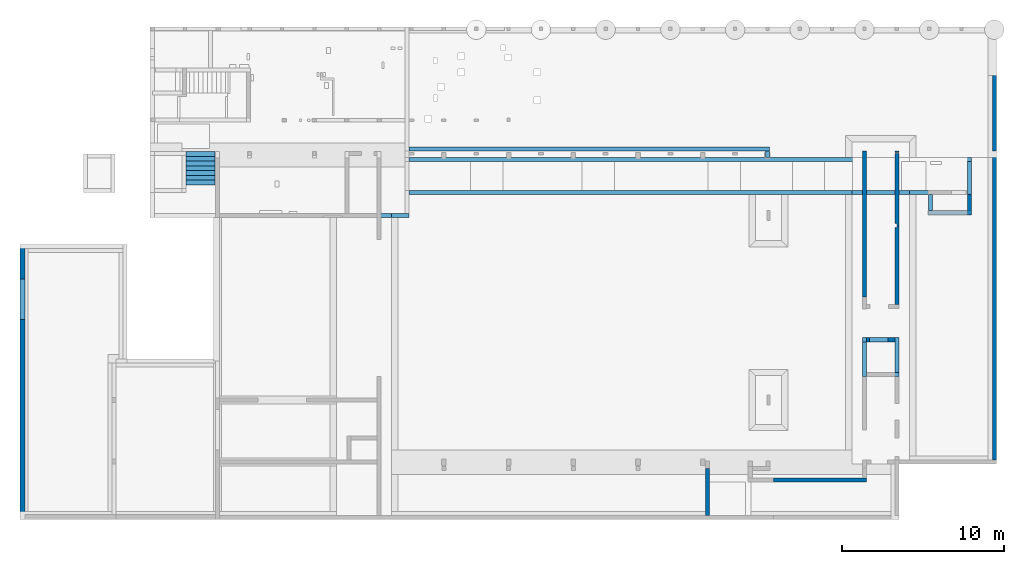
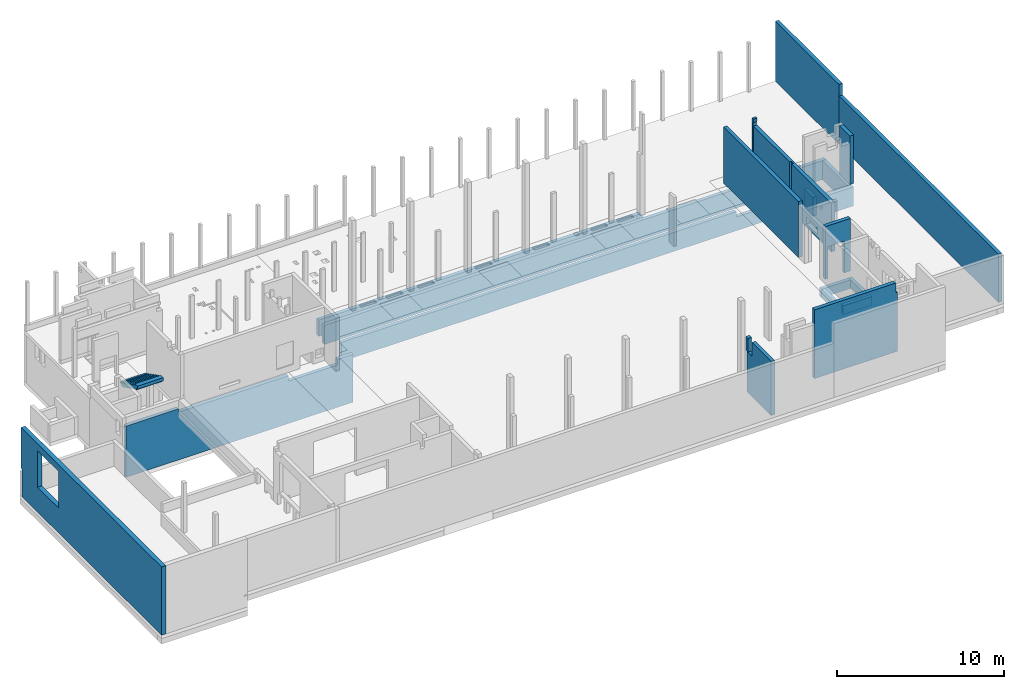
# One storey, part 9 of 12: 21 walls, 1 stair, 6 openings, 1 element without a shape of its own.
"""IFC2X3 building model written with IfcOpenShell, lengths in metres."""

from ifc_helpers import new_model, entity, si_unit, converted_unit, direction, frame, frame_2d, origin, place, context, subcontext, project, spatial, polyline, rectangle, outline, extrude, clip, halfspace, bounded_halfspace, faceted_brep, material, layer, layer_set, layer_usage, type_object, element, aggregate, save


model = new_model("IFC2X3")

# Units and contexts
model_context = context("Model", 3, precision=1e-05, world=frame((30.086303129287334, 2.687674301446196, 462.0)), true_north=direction((0.19008937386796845, 0.9817667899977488)))
body_context = subcontext(model_context, "Body", "Model", "MODEL_VIEW")
ifc_project = project(units=[si_unit("LENGTHUNIT", "METRE"), si_unit("AREAUNIT", "SQUARE_METRE"), converted_unit("PLANEANGLEUNIT", "DEGREE", entity("IfcPlaneAngleMeasure", 0.017453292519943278), si_unit("PLANEANGLEUNIT", "RADIAN"), dimensions=[0, 0, 0, 0, 0, 0, 0]), si_unit("VOLUMEUNIT", "CUBIC_METRE")], contexts=[model_context])

# Site, building, storey
site_placement = place(None, origin())
site = spatial("IfcSite", under=ifc_project, at=site_placement, Name="Default", CompositionType="ELEMENT")
building_placement = place(site_placement, origin())
building = spatial("IfcBuilding", under=site, at=building_placement, CompositionType="ELEMENT")
storey_placement = place(building_placement, frame((0.0, 0.0, -3.800000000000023)))
storey = spatial("IfcBuildingStorey", under=building, at=storey_placement, Name="FB_U01_OKFB", CompositionType="ELEMENT", Elevation=-3.800000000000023)

# Walls
ifc_material_1 = material(Name="WS_CONCRETE_REINFORCED_WATERTIGHT")
ifc_layer_1 = layer(ifc_material_1, 0.24999999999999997)
ifc_layer_set_1 = layer_set([ifc_layer_1], Name="Basiswand:WS_WAL_CON_250_WT")
wall_type_1 = type_object("IfcWallType", Name="Basiswand:WS_WAL_CON_250_WT", PredefinedType="STANDARD", material=ifc_layer_set_1)
wall_1_placement = place(storey_placement, frame((61.955338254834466, -5.13464843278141, -0.0699999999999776), z_axis=(0.0, 0.0, 1.0), x_axis=(-1.0, 0.0, 0.0)))
element("IfcWall", 1, at=wall_1_placement, inside=storey, type_object=wall_type_1, Name="Basiswand:WS_WAL_CON_250_WT", ObjectType="Basiswand:WS_WAL_CON_250_WT", context=body_context, shape_type="Brep", body=[
    faceted_brep([(0.0, -0.12499999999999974, 0.0), (0.25000000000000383, -0.12499999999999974, 0.0), (15.749999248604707, -0.12499999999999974, 0.0), (15.749999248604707, -0.12499999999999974, 2.949999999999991), (15.749999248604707, -0.12499999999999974, 3.750000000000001), (12.100000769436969, -0.12499999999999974, 3.750000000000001), (12.100000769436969, -0.12499999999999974, 3.500000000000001), (4.475000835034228, -0.12499999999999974, 3.5000000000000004), (4.475000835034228, -0.12499999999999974, 3.1), (1.0745270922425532, -0.12499999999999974, 3.1), (1.0745270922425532, -0.12499999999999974, 3.500000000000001), (0.25000000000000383, -0.12499999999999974, 3.500000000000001), (0.0, -0.12499999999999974, 3.500000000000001), (15.749999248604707, 0.12499999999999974, 0.0), (0.0, 0.12499999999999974, 0.0), (0.0, 0.12499999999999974, 3.500000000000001), (1.0745270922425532, 0.12499999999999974, 3.5000000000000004), (1.0745270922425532, 0.12499999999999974, 3.1), (4.475000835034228, 0.12499999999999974, 3.1), (4.475000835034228, 0.12499999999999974, 3.500000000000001), (12.100000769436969, 0.12499999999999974, 3.500000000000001), (12.100000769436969, 0.12499999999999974, 3.750000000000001), (15.749999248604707, 0.12499999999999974, 3.750000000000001)], [[[0, 1, 2, 3, 4, 5, 6, 7, 8, 9, 10, 11, 12]], [[13, 14, 15, 16, 17, 18, 19, 20, 21, 22]], [[2, 1, 0, 14, 13]], [[4, 22, 21, 5]], [[14, 0, 12, 15]], [[4, 3, 2, 13, 22]], [[8, 18, 17, 9]], [[9, 17, 16, 10]], [[18, 8, 7, 19]], [[11, 10, 16, 15, 12]], [[6, 20, 19, 7]], [[20, 6, 5, 21]]]),
])
ifc_layer_usage_1 = layer_usage(ifc_layer_set_1, "AXIS2", "NEGATIVE", 0.12499999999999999)
wall_2_placement = place(storey_placement, frame((61.955338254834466, -3.704610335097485, 2.0300000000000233)))
element("IfcWallStandardCase", 2, at=wall_2_placement, inside=storey, type_object=wall_type_1, material=ifc_layer_usage_1, Name="Basiswand:WS_WAL_CON_250_WT", ObjectType="Basiswand:WS_WAL_CON_250_WT", context=body_context, shape_type="Clipping", body=[
    clip(extrude(rectangle(XDim=32.3449992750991, YDim=0.24999999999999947, at=frame_2d((16.17249963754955, -1.1102230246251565e-16), x_axis=(-1.0, 0.0))), origin(), (0.0, 0.0, 1.0), 1.3999999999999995), bounded_halfspace(frame((27.374998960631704, 0.12500000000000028, 1.0), z_axis=(0.0, 0.0, -1.0), x_axis=(0.0, -1.0, 0.0)), True, frame((27.374998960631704, 0.12500000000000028, 1.0), z_axis=(0.0, 0.0, -1.0), x_axis=(0.0, -1.0, 0.0)), polyline([(0.0, 0.0), (0.0, -3.5500015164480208), (0.2500000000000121, -3.55000151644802), (0.2500000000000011, 0.0), (0.0, 0.0)]))),
])
ifc_layer_usage_2 = layer_usage(ifc_layer_set_1, "AXIS2", "NEGATIVE", 0.12499999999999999)
wall_3_placement = place(storey_placement, frame((61.955338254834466, -1.654647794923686, 2.0300000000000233)))
element("IfcWallStandardCase", 3, at=wall_3_placement, inside=storey, type_object=wall_type_1, material=ifc_layer_usage_2, Name="Basiswand:WS_WAL_CON_250_WT", ObjectType="Basiswand:WS_WAL_CON_250_WT", context=body_context, shape_type="SweptSolid", body=[
    extrude(rectangle(XDim=34.76499920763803, YDim=0.25, at=frame_2d((17.382499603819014, 4.163336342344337e-17), x_axis=(-1.0, 0.0))), origin(), (0.0, 0.0, 1.0), 1.3999999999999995),
])
ifc_layer_usage_3 = layer_usage(ifc_layer_set_1, "AXIS2", "NEGATIVE", 0.12499999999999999)
wall_4_placement = place(storey_placement, frame((61.95533825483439, -1.004647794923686, 2.2300000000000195)))
element("IfcWallStandardCase", 4, at=wall_4_placement, inside=storey, type_object=wall_type_1, material=ifc_layer_usage_3, Name="Basiswand:WS_WAL_CON_250_WT", ObjectType="Basiswand:WS_WAL_CON_250_WT", context=body_context, shape_type="Clipping", body=[
    clip(extrude(rectangle(XDim=22.275000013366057, YDim=0.25, at=frame_2d((11.137500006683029, 0.0), x_axis=(-1.0, 0.0))), origin(), (0.0, 0.0, 1.0), 1.2000000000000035), halfspace(frame((22.275000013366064, -0.125, 0.8093081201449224), z_axis=(0.03630861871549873, 0.0, -0.9993406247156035), x_axis=(0.0, 1.0, 0.0)), False)),
])
ifc_layer_usage_4 = layer_usage(ifc_layer_set_1, "AXIS2", "NEGATIVE", 0.12499999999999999)
wall_5_placement = place(storey_placement, frame((94.17533752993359, -4.834576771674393, 2.0300000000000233), z_axis=(0.0, 0.0, 1.0), x_axis=(0.0, 1.0, 0.0)))
element("IfcWallStandardCase", 5, at=wall_5_placement, inside=storey, type_object=wall_type_1, material=ifc_layer_usage_4, Name="Basiswand:WS_WAL_CON_250_WT", ObjectType="Basiswand:WS_WAL_CON_250_WT", context=body_context, shape_type="SweptSolid", body=[
    extrude(rectangle(XDim=1.0049664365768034, YDim=0.2500000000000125, at=frame_2d((0.5024832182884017, 0.0), x_axis=(-1.0, 0.0))), origin(), (0.0, 0.0, 1.0), 1.3999999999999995),
])
ifc_layer_usage_5 = layer_usage(ifc_layer_set_1, "AXIS2", "NEGATIVE", 0.12499999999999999)
wall_6_placement = place(storey_placement, frame((96.5953374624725, -4.834576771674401, 2.0300000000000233), z_axis=(0.0, 0.0, 1.0), x_axis=(0.0, 1.0, 0.0)))
element("IfcWallStandardCase", 6, at=wall_6_placement, inside=storey, type_object=wall_type_1, material=ifc_layer_usage_5, Name="Basiswand:WS_WAL_CON_250_WT", ObjectType="Basiswand:WS_WAL_CON_250_WT", context=body_context, shape_type="SweptSolid", body=[
    extrude(rectangle(XDim=3.0549289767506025, YDim=0.2500000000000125, at=frame_2d((1.5274644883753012, 0.0), x_axis=(-1.0, 0.0))), origin(), (0.0, 0.0, 1.0), 1.3999999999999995),
])
ifc_layer_usage_6 = layer_usage(ifc_layer_set_1, "AXIS2", "NEGATIVE", 0.12499999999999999)
wall_7_placement = place(storey_placement, frame((84.10533826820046, -1.5296477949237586, 3.030224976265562), z_axis=(0.0, 0.0, 1.0), x_axis=(0.0, 1.0, 0.0)))
element("IfcWallStandardCase", 7, at=wall_7_placement, inside=storey, type_object=wall_type_1, material=ifc_layer_usage_6, Name="Basiswand:WS_WAL_CON_250_WT", ObjectType="Basiswand:WS_WAL_CON_250_WT", context=body_context, shape_type="Clipping", body=[
    clip(extrude(rectangle(XDim=0.4000000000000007, YDim=0.2500000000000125, at=frame_2d((0.20000000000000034, 0.0), x_axis=(-1.0, 0.0))), origin(), (0.0, 0.0, 1.0), 0.3997750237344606), bounded_halfspace(frame((0.3999999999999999, -0.12499999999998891, 0.00908314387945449), z_axis=(0.0, 0.036308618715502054, 0.9993406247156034), x_axis=(0.0, 0.9993406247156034, -0.036308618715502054)), True, frame((0.3999999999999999, -0.12499999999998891, 0.00908314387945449), z_axis=(0.0, 0.036308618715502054, 0.9993406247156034), x_axis=(0.0, 0.9993406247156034, -0.036308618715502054)), polyline([(0.0, 0.0), (0.2503300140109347, 0.0), (0.25033001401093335, 0.4002639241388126), (0.0, 0.4002639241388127), (0.0, 0.0)]))),
])
ifc_layer_usage_7 = layer_usage(ifc_layer_set_1, "AXIS2", "POSITIVE", -0.12499999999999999)
wall_8_placement = place(storey_placement, frame((98.13033792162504, -20.234648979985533, 3.6800000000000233), z_axis=(0.0, 0.0, 1.0), x_axis=(0.0, 1.0, 0.0)))
element("IfcWallStandardCase", 8, at=wall_8_placement, inside=storey, type_object=wall_type_1, material=ifc_layer_usage_7, Name="Basiswand:WS_WAL_CON_250_WT", ObjectType="Basiswand:WS_WAL_CON_250_WT", context=body_context, shape_type="SweptSolid", body=[
    extrude(rectangle(XDim=19.104993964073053, YDim=0.2500000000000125, at=frame_2d((9.552496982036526, 3.802513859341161e-15), x_axis=(-1.0, 0.0))), origin(), (0.0, 0.0, 1.0), 3.55),
])
ifc_layer_usage_8 = layer_usage(ifc_layer_set_1, "AXIS2", "NEGATIVE", 0.12499999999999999)
wall_9_placement = place(storey_placement, frame((89.98033705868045, -12.809649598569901, 2.400000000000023)))
element("IfcWallStandardCase", 9, at=wall_9_placement, inside=storey, type_object=wall_type_1, material=ifc_layer_usage_8, Name="Basiswand:WS_WAL_CON_250_WT", ObjectType="Basiswand:WS_WAL_CON_250_WT", context=body_context, shape_type="SweptSolid", body=[
    extrude(rectangle(XDim=2.0000016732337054, YDim=0.24999999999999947, at=frame_2d((1.0000008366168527, 0.0), x_axis=(-1.0, 0.0))), origin(), (0.0, 0.0, 1.0), 0.6299999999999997),
])
ifc_layer_usage_9 = layer_usage(ifc_layer_set_1, "AXIS2", "NEGATIVE", 0.12499999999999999)
wall_10_placement = place(storey_placement, frame((90.10533705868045, -15.08464891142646, 2.400000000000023), z_axis=(0.0, 0.0, 1.0), x_axis=(0.0, 1.0, 0.0)))
element("IfcWallStandardCase", 10, at=wall_10_placement, inside=storey, type_object=wall_type_1, material=ifc_layer_usage_9, Name="Basiswand:WS_WAL_CON_250_WT", ObjectType="Basiswand:WS_WAL_CON_250_WT", context=body_context, shape_type="SweptSolid", body=[
    extrude(rectangle(XDim=2.1499993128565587, YDim=0.2500000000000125, at=frame_2d((1.0749996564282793, 0.0), x_axis=(-1.0, 0.0))), origin(), (0.0, 0.0, 1.0), 0.6299999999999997),
])
ifc_layer_usage_10 = layer_usage(ifc_layer_set_1, "AXIS2", "NEGATIVE", 0.12499999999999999)
wall_11_placement = place(storey_placement, frame((92.23033873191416, -14.95964891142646, 2.400000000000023), z_axis=(0.0, 0.0, 1.0), x_axis=(-1.0, 0.0, 0.0)))
element("IfcWallStandardCase", 11, at=wall_11_placement, inside=storey, type_object=wall_type_1, material=ifc_layer_usage_10, Name="Basiswand:WS_WAL_CON_250_WT", ObjectType="Basiswand:WS_WAL_CON_250_WT", context=body_context, shape_type="SweptSolid", body=[
    extrude(rectangle(XDim=2.0000016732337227, YDim=0.24999999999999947, at=frame_2d((1.0000008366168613, 0.0), x_axis=(-1.0, 0.0))), origin(), (0.0, 0.0, 1.0), 0.6299999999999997),
])
ifc_layer_usage_11 = layer_usage(ifc_layer_set_1, "AXIS2", "NEGATIVE", 0.12499999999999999)
wall_12_placement = place(storey_placement, frame((92.10533873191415, -12.684649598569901, 2.400000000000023), z_axis=(0.0, 0.0, 1.0), x_axis=(0.0, -1.0, 0.0)))
element("IfcWallStandardCase", 12, at=wall_12_placement, inside=storey, type_object=wall_type_1, material=ifc_layer_usage_11, Name="Basiswand:WS_WAL_CON_250_WT", ObjectType="Basiswand:WS_WAL_CON_250_WT", context=body_context, shape_type="SweptSolid", body=[
    extrude(rectangle(XDim=2.149999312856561, YDim=0.25000000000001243, at=frame_2d((1.0749996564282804, -4.0245584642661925e-16), x_axis=(-1.0, 0.0))), origin(), (0.0, 0.0, 1.0), 0.6299999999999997),
])
ifc_layer_usage_12 = layer_usage(ifc_layer_set_1, "AXIS2", "POSITIVE", -0.12499999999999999)
wall_13_placement = place(storey_placement, frame((98.13033792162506, -1.129655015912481, 3.6800000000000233), z_axis=(0.0, 0.0, 1.0), x_axis=(0.0, 1.0, 0.0)))
element("IfcWallStandardCase", 13, at=wall_13_placement, inside=storey, type_object=wall_type_1, material=ifc_layer_usage_12, Name="Basiswand:WS_WAL_CON_250_WT", ObjectType="Basiswand:WS_WAL_CON_250_WT", context=body_context, shape_type="SweptSolid", body=[
    extrude(rectangle(XDim=7.660000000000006, YDim=0.2500000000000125, at=frame_2d((3.830000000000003, -3.670674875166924e-15), x_axis=(-1.0, 0.0))), origin(), (0.0, 0.0, 1.0), 4.385),
])
ifc_material_2 = material(Name="WS_CONCRETE_REINFORCED")
ifc_layer_2 = layer(ifc_material_2, 0.24999999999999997)
ifc_layer_set_2 = layer_set([ifc_layer_2], Name="Basiswand:WS_WAL_CON_250")
ifc_layer_usage_13 = layer_usage(ifc_layer_set_2, "AXIS2", "NEGATIVE", 0.12499999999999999)
wall_type_2 = type_object("IfcWallType", Name="Basiswand:WS_WAL_CON_250", PredefinedType="STANDARD", material=ifc_layer_set_2)
wall_14_placement = place(storey_placement, frame((96.7203374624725, -4.959576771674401, 2.0300000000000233), z_axis=(0.0, 0.0, 1.0), x_axis=(-1.0, 0.0, 0.0)))
element("IfcWallStandardCase", 14, at=wall_14_placement, inside=storey, type_object=wall_type_2, material=ifc_layer_usage_13, Name="Basiswand:WS_WAL_CON_250", ObjectType="Basiswand:WS_WAL_CON_250", context=body_context, shape_type="SweptSolid", body=[
    extrude(rectangle(XDim=2.669999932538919, YDim=0.24999999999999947, at=frame_2d((1.3349999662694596, -1.1796119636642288e-16), x_axis=(-1.0, 0.0))), origin(), (0.0, 0.0, 1.0), 1.3999999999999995),
])

# Wall, opening
ifc_layer_usage_14 = layer_usage(ifc_layer_set_2, "AXIS2", "POSITIVE", -0.12499999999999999)
wall_15_placement = place(storey_placement, frame((96.5953374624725, -3.82957096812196, 3.6800000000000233), z_axis=(0.0, 0.0, 1.0), x_axis=(0.0, -1.0, 0.0)))
wall_15 = element("IfcWallStandardCase", 15, at=wall_15_placement, inside=storey, type_object=wall_type_2, material=ifc_layer_usage_14, Name="Basiswand:WS_WAL_CON_250", ObjectType="Basiswand:WS_WAL_CON_250", context=body_context, shape_type="Clipping", body=[
    clip(extrude(rectangle(XDim=1.2550058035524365, YDim=0.2500000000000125, at=frame_2d((0.6275029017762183, 0.0), x_axis=(-1.0, 0.0))), origin(), (0.0, 0.0, 1.0), 3.55), bounded_halfspace(frame((0.0, -0.12499999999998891, 3.55), z_axis=(0.0, 0.0, -1.0), x_axis=(1.0, 0.0, 0.0)), True, frame((0.0, -0.12499999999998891, 3.55)), polyline([(0.0, 0.0), (1.2550058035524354, 0.0), (1.2550058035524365, 0.24999999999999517), (0.0, 0.24999999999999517), (0.0, 0.0)]))),
])
opening_1_placement = place(wall_15_placement, origin())
element("IfcOpeningElement", 16, at=opening_1_placement, cuts=wall_15, Name="Basiswand:WS_WAL_CON_250", ObjectType="Opening", context=body_context, shape_type="SweptSolid", body=[
    extrude(rectangle(XDim=0.5499999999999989, YDim=0.2499999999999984, at=frame_2d((2.7755575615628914e-16, 5.412337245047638e-16), x_axis=(1.0, 0.0))), frame((1.1300058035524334, -0.7249999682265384, 3.274999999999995), z_axis=(0.0, 1.0, 0.0), x_axis=(0.0, 0.0, -1.0)), (0.0, 0.0, 1.0), 0.6000000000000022),
])

ifc_layer_usage_15 = layer_usage(ifc_layer_set_2, "AXIS2", "POSITIVE", -0.12499999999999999)
wall_16_placement = place(storey_placement, frame((90.23033691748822, -12.809649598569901, 3.6800000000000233)))
wall_16 = element("IfcWallStandardCase", 17, at=wall_16_placement, inside=storey, type_object=wall_type_2, material=ifc_layer_usage_15, Name="Basiswand:WS_WAL_CON_250", ObjectType="Basiswand:WS_WAL_CON_250", context=body_context, shape_type="SweptSolid", body=[
    extrude(rectangle(XDim=1.7500018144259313, YDim=0.24999999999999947, at=frame_2d((0.8750009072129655, 9.71445146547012e-17), x_axis=(1.0, 0.0))), origin(), (0.0, 0.0, 1.0), 3.8549999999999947),
])
opening_2_placement = place(wall_16_placement, frame((-90.23033691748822, 12.809649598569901, -3.6800000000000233)))
element("IfcOpeningElement", 18, at=opening_2_placement, cuts=wall_16, Name="Basiswand:WS_WAL_CON_250", ObjectType="Opening", context=body_context, shape_type="SweptSolid", body=[
    extrude(rectangle(XDim=2.339999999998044, YDim=1.1400000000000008, at=frame_2d((8.659739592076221e-15, 1.1102230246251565e-16), x_axis=(0.0, 1.0))), frame((90.99033873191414, -14.458649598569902, 4.849999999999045), z_axis=(0.0, 1.0, 0.0), x_axis=(-1.0, 0.0, 0.0)), (0.0, 0.0, 1.0), 3.048),
])

# Wall
wall_17_placement = place(storey_placement, frame((80.4103372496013, -23.664655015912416, 3.6800000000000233), z_axis=(0.0, 0.0, 1.0), x_axis=(0.0, 1.0, 0.0)))
element("IfcWall", 19, at=wall_17_placement, inside=storey, type_object=wall_type_2, Name="Basiswand:WS_WAL_CON_250", ObjectType="Basiswand:WS_WAL_CON_250", context=body_context, shape_type="Brep", body=[
    faceted_brep([(0.0, -0.12499999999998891, 0.0), (2.90009509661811, -0.12499999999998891, 0.0), (2.90009509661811, -0.12499999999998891, 2.9799999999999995), (3.025095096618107, -0.12499999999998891, 2.9799999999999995), (3.025095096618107, -0.12499999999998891, 3.969999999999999), (2.7750469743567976, -0.12499999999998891, 3.969999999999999), (2.7750469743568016, -0.12499999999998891, 2.9799999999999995), (2.3000469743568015, -0.12499999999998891, 2.979999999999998), (2.300046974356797, -0.12499999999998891, 3.9699999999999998), (2.0499988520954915, -0.12499999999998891, 3.9699999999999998), (0.0, -0.12499999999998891, 3.969999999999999), (2.90009509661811, 0.12500000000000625, 0.0), (0.0, 0.12500000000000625, 0.0), (0.0, 0.12500000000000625, 3.969999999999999), (2.300046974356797, 0.12500000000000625, 3.969999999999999), (2.3000469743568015, 0.12500000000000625, 2.9799999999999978), (2.7750469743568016, 0.12500000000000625, 2.9799999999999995), (2.7750469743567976, 0.12500000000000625, 3.969999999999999), (3.025095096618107, 0.12500000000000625, 3.969999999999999), (3.025095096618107, 0.12500000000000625, 3.6649999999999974), (3.0250950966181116, 0.12500000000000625, 2.9799999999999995), (2.90009509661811, 0.12500000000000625, 2.9799999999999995)], [[[0, 1, 2, 3, 4, 5, 6, 7, 8, 9, 10]], [[11, 12, 13, 14, 15, 16, 17, 18, 19, 20, 21]], [[1, 0, 12, 11]], [[4, 18, 17, 5]], [[0, 10, 13, 12]], [[15, 7, 6, 16]], [[7, 15, 14, 8]], [[16, 6, 5, 17]], [[1, 11, 21, 2]], [[3, 2, 21, 20]], [[4, 3, 20, 19, 18]], [[13, 10, 9, 8, 14]]]),
])

# Wall, openings
ifc_layer_usage_16 = layer_usage(ifc_layer_set_2, "AXIS2", "POSITIVE", -0.12499999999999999)
wall_18_placement = place(storey_placement, frame((92.10533873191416, -10.634648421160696, 3.6800000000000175), z_axis=(0.0, 0.0, 1.0), x_axis=(0.0, 1.0, 0.0)))
wall_18 = element("IfcWallStandardCase", 20, at=wall_18_placement, inside=storey, type_object=wall_type_2, material=ifc_layer_usage_16, Name="Basiswand:WS_WAL_CON_250", ObjectType="Basiswand:WS_WAL_CON_250", context=body_context, shape_type="Clipping", body=[
    clip(clip(extrude(rectangle(XDim=9.505000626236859, YDim=0.2500000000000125, at=frame_2d((4.752500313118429, -1.457167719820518e-15), x_axis=(-1.0, 0.0))), origin(), (0.0, 0.0, 1.0), 4.055000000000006), bounded_halfspace(frame((9.399993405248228, 0.12500000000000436, 3.8000000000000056)), True, frame((9.399993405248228, 0.12500000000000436, 3.8000000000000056)), polyline([(0.0, 0.0), (-0.05000730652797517, 0.0), (-0.05000730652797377, -0.24999999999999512), (0.0, -0.24999999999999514), (0.0, 0.0)]))), bounded_halfspace(frame((9.399993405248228, 0.12500000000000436, 3.5500000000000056), z_axis=(1.0, 0.0, 0.0), x_axis=(0.0, 0.0, 1.0)), True, frame((9.399993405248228, 0.12500000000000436, 3.5500000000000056), z_axis=(1.0, 0.0, 0.0), x_axis=(0.0, 0.0, 1.0)), polyline([(0.0, 0.0), (0.0762, 0.0), (0.0762, 0.07619999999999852), (0.0, 0.07619999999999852), (0.0, 0.0)]))),
])
opening_3_placement = place(wall_18_placement, origin())
element("IfcOpeningElement", 21, at=opening_3_placement, cuts=wall_18, Name="Basiswand:WS_WAL_CON_250", ObjectType="Recess", context=body_context, shape_type="SweptSolid", body=[
    extrude(rectangle(XDim=4.927438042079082, YDim=0.2499999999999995, at=frame_2d((2.220446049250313e-16, 1.0894063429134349e-15), x_axis=(1.0, 0.0))), frame((4.900722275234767, -0.025000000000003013, 2.463719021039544), z_axis=(0.0, 1.0, 0.0), x_axis=(0.0, 0.0, -1.0)), (0.0, 0.0, 1.0), 0.15000000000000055),
])
opening_4_placement = place(wall_18_placement, origin())
element("IfcOpeningElement", 22, at=opening_4_placement, cuts=wall_18, Name="Basiswand:WS_WAL_CON_250", ObjectType="Recess", context=body_context, shape_type="SweptSolid", body=[
    extrude(rectangle(XDim=0.8999999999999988, YDim=1.1, at=frame_2d((-1.1102230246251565e-15, 0.0), x_axis=(0.0, 1.0))), frame((2.080005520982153, -0.1250000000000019, 0.4500000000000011), z_axis=(0.0, 1.0, 0.0), x_axis=(1.0, 0.0, 0.0)), (0.0, 0.0, 1.0), 0.12000000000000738),
])
opening_5_placement = place(wall_18_placement, origin())
element("IfcOpeningElement", 23, at=opening_5_placement, cuts=wall_18, Name="Basiswand:WS_WAL_CON_250", ObjectType="Opening", context=body_context, shape_type="SweptSolid", body=[
    extrude(rectangle(XDim=0.505, YDim=9.474986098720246, at=frame_2d((0.0, 0.0), x_axis=(0.0, 1.0))), frame((4.61249304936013, 0.12500000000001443, 3.8025000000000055), z_axis=(0.0, -1.0, 0.0), x_axis=(-1.0, 0.0, 0.0)), (0.0, 0.0, 1.0), 0.24999999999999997),
])

# Wall, opening
ifc_layer_usage_17 = layer_usage(ifc_layer_set_2, "AXIS2", "NEGATIVE", 0.12499999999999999)
wall_19_placement = place(storey_placement, frame((90.10533735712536, -10.174559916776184, 3.6800000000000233), z_axis=(0.0, 0.0, 1.0), x_axis=(0.0, 1.0, 0.0)))
wall_19 = element("IfcWallStandardCase", 24, at=wall_19_placement, inside=storey, type_object=wall_type_2, material=ifc_layer_usage_17, Name="Basiswand:WS_WAL_CON_250", ObjectType="Basiswand:WS_WAL_CON_250", context=body_context, shape_type="SweptSolid", body=[
    extrude(rectangle(XDim=9.044912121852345, YDim=0.25000000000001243, at=frame_2d((4.522456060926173, -6.106226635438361e-16), x_axis=(-1.0, 0.0))), origin(), (0.0, 0.0, 1.0), 4.104999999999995),
])
opening_6_placement = place(wall_19_placement, origin())
element("IfcOpeningElement", 25, at=opening_6_placement, cuts=wall_19, Name="Basiswand:WS_WAL_CON_250", ObjectType="Opening", context=body_context, shape_type="SweptSolid", body=[
    extrude(rectangle(XDim=0.04999999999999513, YDim=0.025007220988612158, at=frame_2d((0.0, -6.765421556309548e-17), x_axis=(1.0, 0.0))), frame((9.032408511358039, 0.12500000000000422, 4.079999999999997), z_axis=(0.0, -1.0, 0.0), x_axis=(0.0, 0.0, 1.0)), (0.0, 0.0, 1.0), 0.24999999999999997),
])

# Walls
wall_20_placement = place(storey_placement, frame((90.2303369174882, -21.489656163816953, 3.6800000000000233), z_axis=(0.0, 0.0, 1.0), x_axis=(-1.0, 0.0, 0.0)))
element("IfcWall", 26, at=wall_20_placement, inside=storey, type_object=wall_type_2, Name="Basiswand:WS_WAL_CON_250", ObjectType="Basiswand:WS_WAL_CON_250", context=body_context, shape_type="Brep", body=[
    faceted_brep([(0.0, -0.12499999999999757, 0.0), (0.24999999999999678, -0.12499999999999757, 0.0), (5.749998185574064, -0.12499999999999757, 0.0), (5.749998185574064, -0.12499999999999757, 3.969999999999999), (5.749998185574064, -0.12499999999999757, 4.329999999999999), (5.749998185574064, -0.12499999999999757, 5.039999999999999), (0.24999999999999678, -0.12499999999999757, 5.039999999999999), (0.12499999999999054, -0.12499999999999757, 5.039999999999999), (0.12499999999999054, -0.12499999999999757, 4.329999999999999), (0.0, -0.12499999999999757, 4.329999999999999), (0.0, -0.12499999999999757, 3.969999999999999), (0.0, -0.12499999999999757, 3.700000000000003), (0.0, -0.12499999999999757, 3.0), (5.7499981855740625, 0.12500000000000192, 0.0), (0.0, 0.12500000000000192, 0.0), (0.0, 0.12500000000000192, 3.969999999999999), (0.0, 0.12500000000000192, 4.329999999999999), (0.12499999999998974, 0.12500000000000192, 4.329999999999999), (0.12499999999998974, 0.12500000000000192, 5.039999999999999), (5.7499981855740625, 0.12500000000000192, 5.039999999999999), (5.7499981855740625, 0.12500000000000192, 3.969999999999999)], [[[0, 1, 2, 3, 4, 5, 6, 7, 8, 9, 10, 11, 12]], [[13, 14, 15, 16, 17, 18, 19, 20]], [[2, 1, 0, 14, 13]], [[13, 20, 19, 5, 4, 3, 2]], [[7, 6, 5, 19, 18]], [[7, 18, 17, 8]], [[8, 17, 16, 9]], [[9, 16, 15, 14, 0, 12, 11, 10]]]),
])
ifc_layer_3 = layer(ifc_material_1, 0.29999999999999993)
ifc_layer_set_3 = layer_set([ifc_layer_3], Name="Basiswand:WS_WAL_CON_300_WT")
wall_type_3 = type_object("IfcWallType", Name="Basiswand:WS_WAL_CON_300_WT", PredefinedType="STANDARD", material=ifc_layer_set_3)
wall_21_placement = place(storey_placement, frame((38.055337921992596, -7.049653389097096, 2.580000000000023), z_axis=(0.0, 0.0, 1.0), x_axis=(0.0, -1.0, 0.0)))
element("IfcWall", 27, at=wall_21_placement, inside=storey, type_object=wall_type_3, Name="Basiswand:WS_WAL_CON_300_WT", ObjectType="Basiswand:WS_WAL_CON_300_WT", context=body_context, shape_type="Brep", body=[
    faceted_brep([(0.12499999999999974, -0.15000000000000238, 0.0), (16.865001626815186, -0.15000000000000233, 0.0), (16.865001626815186, -0.15000000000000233, 5.004999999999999), (0.0, -0.15000000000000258, 5.004999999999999), (0.0, -0.15000000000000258, 2.0), (0.12499999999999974, -0.15000000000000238, 2.0), (0.12499999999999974, -0.15000000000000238, 1.7499999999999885), (1.9899950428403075, -0.15000000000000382, 4.505), (4.509995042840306, -0.1500000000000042, 4.504999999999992), (4.5099950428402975, -0.1500000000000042, 1.8299999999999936), (1.9899950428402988, -0.15000000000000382, 1.8300000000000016), (16.865001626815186, 0.14999999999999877, 0.0), (16.565001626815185, 0.14999999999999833, 0.0), (0.12499999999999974, 0.14999999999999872, 0.0), (0.12499999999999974, 0.14999999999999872, 1.7499999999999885), (0.12499999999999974, 0.14999999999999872, 2.0), (0.0, 0.14999999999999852, 2.0), (0.0, 0.14999999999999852, 5.004999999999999), (16.565001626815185, 0.14999999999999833, 5.004999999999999), (16.865001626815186, 0.14999999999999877, 5.004999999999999), (4.5099950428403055, 0.14999999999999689, 4.504999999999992), (1.9899950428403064, 0.14999999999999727, 4.505), (1.9899950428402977, 0.14999999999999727, 1.8300000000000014), (4.509995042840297, 0.14999999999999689, 1.8299999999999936)], [[[0, 1, 2, 3, 4, 5, 6], [7, 8, 9, 10]], [[11, 12, 13, 14, 15, 16, 17, 18, 19], [20, 21, 22, 23]], [[1, 0, 13, 12, 11]], [[3, 2, 19, 18, 17]], [[2, 1, 11, 19]], [[3, 17, 16, 4]], [[4, 16, 15, 5]], [[5, 15, 14, 13, 0, 6]], [[7, 21, 20, 8]], [[9, 23, 22, 10]], [[8, 20, 23, 9]], [[21, 7, 10, 22]]]),
])

# Stairs
type_product = type_object("IfcTypeProduct", Name="Treppen 1:Treppen 1")
stair_1_placement = place(storey_placement, origin())
stair_1 = element("IfcStair", 28, at=stair_1_placement, inside=storey, type_object=type_product, Name="Treppen 1:Treppen 1", ObjectType="Treppen 1:Treppen 1", ShapeType="NOTDEFINED")
ifc_material_3 = material(Name="WS_CONCRETE_REINFORCED_PRECAST")
stair_2_placement = place(stair_1_placement, origin())
stair_2 = element("IfcStair", 29, at=stair_2_placement, type_object=type_product, material=ifc_material_3, Name="Treppen 1:Treppen 1", ObjectType="Treppen 1:Treppen 1", ShapeType="NOTDEFINED", context=body_context, shape_type="SweptSolid", body=[
    extrude(outline(polyline([(-0.7588385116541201, -0.20023498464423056), (0.9179526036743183, -0.20023498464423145), (1.0792848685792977, -0.11820162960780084), (1.0248952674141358, -0.01123541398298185), (1.1407753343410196, 0.04768665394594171), (1.0909181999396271, 0.1457390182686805), (0.8235026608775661, 0.009765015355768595), (0.7555156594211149, 0.1434727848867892), (0.49255704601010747, 0.009765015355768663), (0.42457004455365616, 0.14347278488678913), (0.1616114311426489, 0.009765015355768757), (0.09362442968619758, 0.14347278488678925), (-0.16933418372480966, 0.00976501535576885), (-0.23732118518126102, 0.14347278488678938), (-0.5002797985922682, 0.009765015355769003), (-0.5682668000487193, 0.1434727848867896), (-0.8312254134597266, 0.009765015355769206), (-0.8992124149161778, 0.1434727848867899), (-1.162171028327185, 0.009765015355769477), (-1.0579242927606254, -0.19525356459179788), (-0.942044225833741, -0.13633149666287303), (-0.878589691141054, -0.26112541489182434), (-0.7588385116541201, -0.20023498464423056)])), frame((48.17033862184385, -2.208131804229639, 4.164545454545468), z_axis=(1.0, 0.0, 0.0), x_axis=(0.0, 0.891385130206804, -0.45324667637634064)), (0.0, 0.0, 1.0), 1.7949988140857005),
])
aggregate(stair_1, [stair_2])

save(model, "model.ifc")
